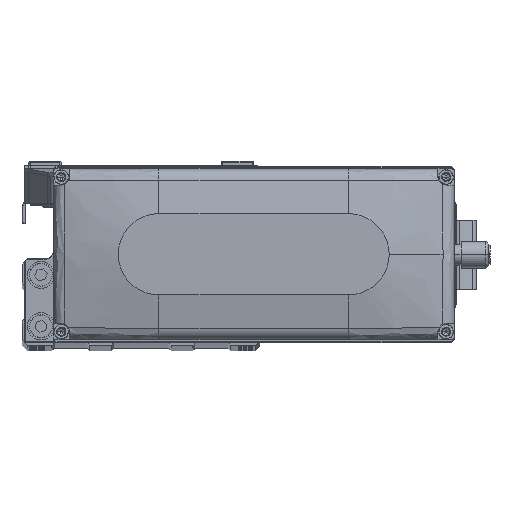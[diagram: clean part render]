
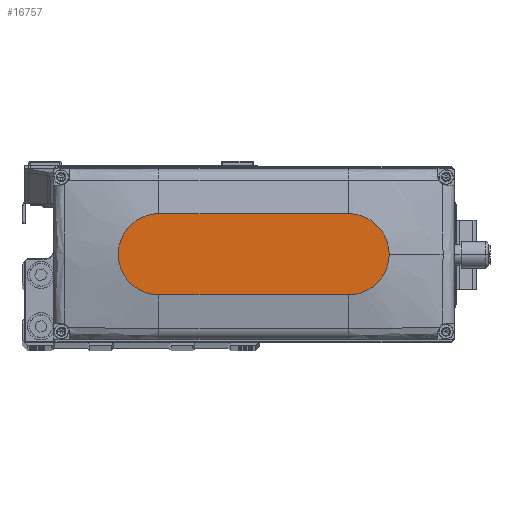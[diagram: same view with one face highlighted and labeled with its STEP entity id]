
A CAD part, top view. The second image highlights one B-rep face of the part: STEP entity #16757.
In plain terms, the highlighted planar face has unit normal (0, 0, 1).
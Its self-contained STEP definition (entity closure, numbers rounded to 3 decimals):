
#316 = ORIENTED_EDGE ( 'NONE', *, *, #13656, .T. ) ;
#758 = CARTESIAN_POINT ( 'NONE',  ( 50., 0., 35. ) ) ;
#1018 = CIRCLE ( 'NONE', #30009, 15. ) ;
#3098 = CARTESIAN_POINT ( 'NONE',  ( 35., -15., 35. ) ) ;
#3642 = FACE_OUTER_BOUND ( 'NONE', #17465, .T. ) ;
#3748 = LINE ( 'NONE', #19614, #40246 ) ;
#4339 = CARTESIAN_POINT ( 'NONE',  ( 35., 0., 35. ) ) ;
#4490 = DIRECTION ( 'NONE',  ( -1., 0., 0. ) ) ;
#5054 = VERTEX_POINT ( 'NONE', #21354 ) ;
#8250 = EDGE_CURVE ( 'NONE', #28614, #48612, #36806, .T. ) ;
#12864 = CARTESIAN_POINT ( 'NONE',  ( -35., -15., 35. ) ) ;
#12907 = AXIS2_PLACEMENT_3D ( 'NONE', #13362, #29169, #44964 ) ;
#13362 = CARTESIAN_POINT ( 'NONE',  ( -35., 0., 35. ) ) ;
#13656 = EDGE_CURVE ( 'NONE', #36104, #28614, #3748, .T. ) ;
#14478 = AXIS2_PLACEMENT_3D ( 'NONE', #4339, #20198, #35965 ) ;
#14481 = VECTOR ( 'NONE', #4490, 1000. ) ;
#14844 = CARTESIAN_POINT ( 'NONE',  ( 35., 0., 35. ) ) ;
#15581 = ORIENTED_EDGE ( 'NONE', *, *, #36555, .T. ) ;
#15617 = DIRECTION ( 'NONE',  ( 1., 0., 0. ) ) ;
#16757 = ADVANCED_FACE ( 'NONE', ( #3642 ), #19509, .T. ) ;
#17378 = ORIENTED_EDGE ( 'NONE', *, *, #25155, .T. ) ;
#17465 = EDGE_LOOP ( 'NONE', ( #15581, #50326, #316, #28623, #17378 ) ) ;
#19509 = PLANE ( 'NONE',  #42015 ) ;
#19614 = CARTESIAN_POINT ( 'NONE',  ( -35., -15., 35. ) ) ;
#20198 = DIRECTION ( 'NONE',  ( 0., 0., 1. ) ) ;
#21354 = CARTESIAN_POINT ( 'NONE',  ( -35., 15., 35. ) ) ;
#24242 = LINE ( 'NONE', #39999, #14481 ) ;
#25155 = EDGE_CURVE ( 'NONE', #48612, #35326, #1018, .T. ) ;
#28614 = VERTEX_POINT ( 'NONE', #3098 ) ;
#28623 = ORIENTED_EDGE ( 'NONE', *, *, #8250, .T. ) ;
#29169 = DIRECTION ( 'NONE',  ( 0., 0., 1. ) ) ;
#30009 = AXIS2_PLACEMENT_3D ( 'NONE', #14844, #30644, #46442 ) ;
#30030 = EDGE_CURVE ( 'NONE', #5054, #36104, #35235, .T. ) ;
#30644 = DIRECTION ( 'NONE',  ( 0., 0., 1. ) ) ;
#35235 = CIRCLE ( 'NONE', #12907, 15. ) ;
#35277 = CARTESIAN_POINT ( 'NONE',  ( 0., 0., 35. ) ) ;
#35326 = VERTEX_POINT ( 'NONE', #36110 ) ;
#35383 = DIRECTION ( 'NONE',  ( 1., 0., 0. ) ) ;
#35965 = DIRECTION ( 'NONE',  ( 1., 0., 0. ) ) ;
#36104 = VERTEX_POINT ( 'NONE', #12864 ) ;
#36110 = CARTESIAN_POINT ( 'NONE',  ( 35., 15., 35. ) ) ;
#36555 = EDGE_CURVE ( 'NONE', #35326, #5054, #24242, .T. ) ;
#36806 = CIRCLE ( 'NONE', #14478, 15. ) ;
#39999 = CARTESIAN_POINT ( 'NONE',  ( -35., 15., 35. ) ) ;
#40246 = VECTOR ( 'NONE', #35383, 1000. ) ;
#42015 = AXIS2_PLACEMENT_3D ( 'NONE', #35277, #51067, #15617 ) ;
#44964 = DIRECTION ( 'NONE',  ( 1., 0., 0. ) ) ;
#46442 = DIRECTION ( 'NONE',  ( 1., 0., 0. ) ) ;
#48612 = VERTEX_POINT ( 'NONE', #758 ) ;
#50326 = ORIENTED_EDGE ( 'NONE', *, *, #30030, .T. ) ;
#51067 = DIRECTION ( 'NONE',  ( 0., 0., 1. ) ) ;
